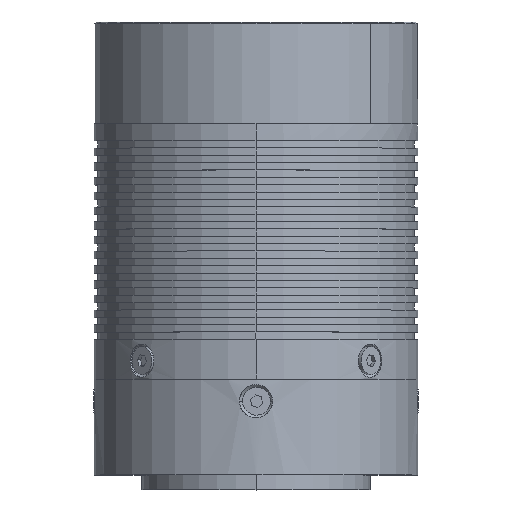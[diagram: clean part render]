
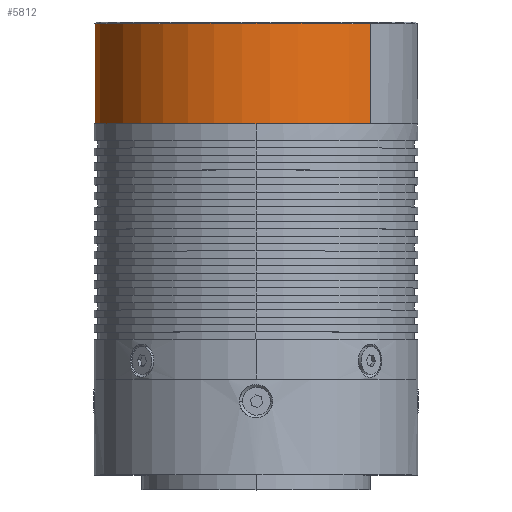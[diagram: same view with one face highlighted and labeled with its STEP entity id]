
A CAD part, top view. The second image highlights one B-rep face of the part: STEP entity #5812.
In plain terms, the highlighted cylindrical face has radius 22 mm (diameter 44 mm), a partial arc.
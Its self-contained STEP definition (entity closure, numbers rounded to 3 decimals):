
#262 = AXIS2_PLACEMENT_3D ( 'NONE', #17044, #15476, #18986 ) ;
#385 = VERTEX_POINT ( 'NONE', #7240 ) ;
#665 = EDGE_CURVE ( 'NONE', #11812, #9792, #8272, .T. ) ;
#917 = ORIENTED_EDGE ( 'NONE', *, *, #2093, .F. ) ;
#1716 = EDGE_CURVE ( 'NONE', #385, #9792, #18358, .T. ) ;
#2093 = EDGE_CURVE ( 'NONE', #8301, #385, #15058, .T. ) ;
#2439 = CARTESIAN_POINT ( 'NONE',  ( 0., 13.4, 22. ) ) ;
#3044 = CYLINDRICAL_SURFACE ( 'NONE', #262, 22. ) ;
#3372 = CARTESIAN_POINT ( 'NONE',  ( 0., 0.5, -22. ) ) ;
#4721 = FACE_OUTER_BOUND ( 'NONE', #12606, .T. ) ;
#5037 = AXIS2_PLACEMENT_3D ( 'NONE', #13232, #7178, #17927 ) ;
#5322 = CARTESIAN_POINT ( 'NONE',  ( 0., 14.1, 22. ) ) ;
#5471 = DIRECTION ( 'NONE',  ( 0., -1., 0. ) ) ;
#5552 = CARTESIAN_POINT ( 'NONE',  ( 0., 14.1, 0. ) ) ;
#5812 = ADVANCED_FACE ( 'NONE', ( #4721 ), #3044, .T. ) ;
#6091 = AXIS2_PLACEMENT_3D ( 'NONE', #5552, #20050, #8775 ) ;
#7178 = DIRECTION ( 'NONE',  ( 0., -1., 0. ) ) ;
#7240 = CARTESIAN_POINT ( 'NONE',  ( 0., 0.5, 22. ) ) ;
#8272 = LINE ( 'NONE', #14319, #15658 ) ;
#8301 = VERTEX_POINT ( 'NONE', #5322 ) ;
#8775 = DIRECTION ( 'NONE',  ( 0., 0., 1. ) ) ;
#9792 = VERTEX_POINT ( 'NONE', #3372 ) ;
#10337 = ORIENTED_EDGE ( 'NONE', *, *, #10859, .T. ) ;
#10702 = CARTESIAN_POINT ( 'NONE',  ( 0., 14.1, -22. ) ) ;
#10859 = EDGE_CURVE ( 'NONE', #8301, #11812, #12749, .T. ) ;
#11812 = VERTEX_POINT ( 'NONE', #10702 ) ;
#12606 = EDGE_LOOP ( 'NONE', ( #917, #10337, #17723, #17399 ) ) ;
#12749 = CIRCLE ( 'NONE', #6091, 22. ) ;
#12966 = DIRECTION ( 'NONE',  ( 0., -1., 0. ) ) ;
#13232 = CARTESIAN_POINT ( 'NONE',  ( 0., 0.5, 0. ) ) ;
#13348 = VECTOR ( 'NONE', #5471, 1000. ) ;
#14319 = CARTESIAN_POINT ( 'NONE',  ( 0., 13.4, -22. ) ) ;
#15058 = LINE ( 'NONE', #2439, #13348 ) ;
#15476 = DIRECTION ( 'NONE',  ( 0., -1., 0. ) ) ;
#15658 = VECTOR ( 'NONE', #12966, 1000. ) ;
#17044 = CARTESIAN_POINT ( 'NONE',  ( 0., 13.4, 0. ) ) ;
#17399 = ORIENTED_EDGE ( 'NONE', *, *, #1716, .F. ) ;
#17723 = ORIENTED_EDGE ( 'NONE', *, *, #665, .T. ) ;
#17927 = DIRECTION ( 'NONE',  ( 0., 0., -1. ) ) ;
#18358 = CIRCLE ( 'NONE', #5037, 22. ) ;
#18986 = DIRECTION ( 'NONE',  ( 0., 0., -1. ) ) ;
#20050 = DIRECTION ( 'NONE',  ( 0., -1., 0. ) ) ;
